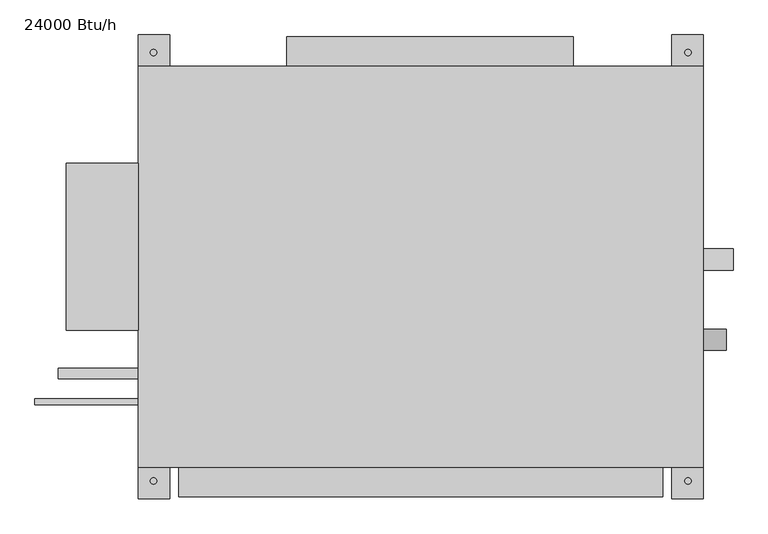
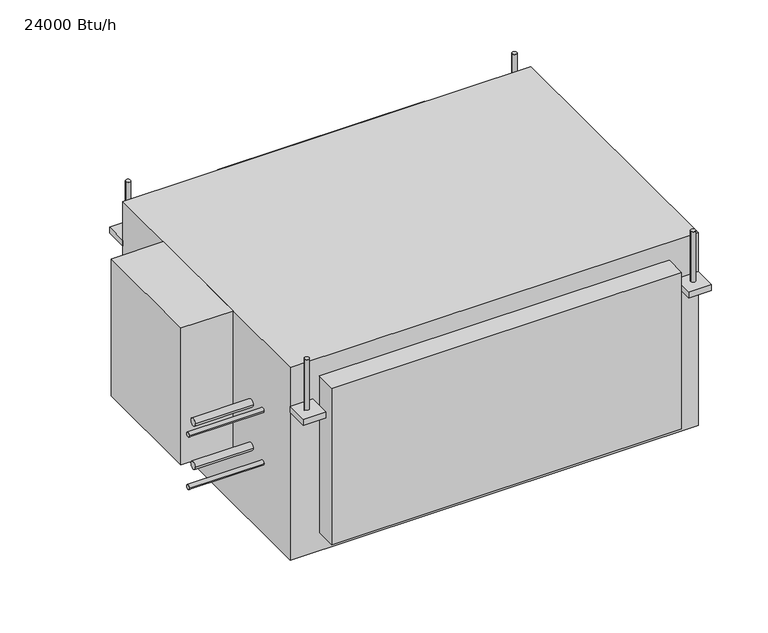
"""IFC4 building model written with IfcOpenShell, lengths in millimetres: proxy geometry, Lennox-VRF-24,30,36_Btu-High_Static_Ducted-VHIA-2P_Series : 24000 Btu/h."""

from ifc_helpers import new_model, si_unit, point, frame, frame_2d, origin, origin_with_axes, place, context, project, spatial, polyline, circle_curve, trimmed, segment, composite_curve, outline, extrude, source, transform, mapped, element, save
from ifc_brep_helpers import plane_surface, cylinder_surface, advanced_brep


def proxy_24000_btu_h_73619e10(model_context):
    return source(origin(), model_context, "Body", "SolidModel", [
        advanced_brep(
        [(511.5, -124.875, 44.0), (511.5, -93.125, 44.0), (511.5, -109.0, 44.0), (476.5, -124.875, 44.0), (476.5, -93.125, 44.0), (476.5, -109.0, 44.0)],
        [
            (0, 1, circle_curve(frame((511.5, -109.0, 44.0), z_axis=(1.0, 0.0, 0.0), x_axis=(0.0, 1.0, 0.0)), 15.875)),
            (1, 2),
            (2, 0),
            (1, 0, circle_curve(frame((511.5, -109.0, 44.0), z_axis=(1.0, 0.0, 0.0), x_axis=(0.0, 1.0, 0.0)), 15.875)),
            (3, 4, circle_curve(frame((476.5, -109.0, 44.0), z_axis=(1.0, 0.0, 0.0), x_axis=(0.0, 1.0, 0.0)), 15.875)),
            (4, 1),
            (0, 3),
            (4, 3, circle_curve(frame((476.5, -109.0, 44.0), z_axis=(1.0, 0.0, 0.0), x_axis=(0.0, 1.0, 0.0)), 15.875)),
            (5, 4),
            (3, 5),
        ],
        [
            plane_surface(frame((511.5, -109.0, 44.0), z_axis=(1.0, 0.0, 0.0), x_axis=(0.0, 1.0, 0.0))),
            cylinder_surface(frame((476.5, -109.0, 44.0), z_axis=(-1.0, 0.0, 0.0), x_axis=(0.0, 1.0, 0.0)), 15.875),
            plane_surface(frame((476.5, -109.0, 44.0), z_axis=(-1.0, 0.0, 0.0), x_axis=(0.0, 1.0, 0.0))),
        ],
        [
            (0, [[1, 2, 3]]),
            (0, [[4, -3, -2]]),
            (1, [[5, 6, -1, 7]]),
            (1, [[8, -7, -4, -6]]),
            (2, [[9, -5, 10]]),
            (2, [[-10, -8, -9]]),
        ],
    ),
        advanced_brep(
        [(476.5, 26.875, 25.0), (476.5, -4.875, 25.0), (476.5, 11.0, 25.0), (521.5, 26.875, 25.0), (521.5, -4.875, 25.0), (521.5, 11.0, 25.0)],
        [
            (0, 1, circle_curve(frame((476.5, 11.0, 25.0), z_axis=(-1.0, 0.0, 0.0), x_axis=(0.0, -1.0, 0.0)), 15.875)),
            (1, 2),
            (2, 0),
            (1, 0, circle_curve(frame((476.5, 11.0, 25.0), z_axis=(-1.0, 0.0, 0.0), x_axis=(0.0, -1.0, 0.0)), 15.875)),
            (3, 4, circle_curve(frame((521.5, 11.0, 25.0), z_axis=(-1.0, 0.0, 0.0), x_axis=(0.0, -1.0, 0.0)), 15.875)),
            (4, 1),
            (0, 3),
            (4, 3, circle_curve(frame((521.5, 11.0, 25.0), z_axis=(-1.0, 0.0, 0.0), x_axis=(0.0, -1.0, 0.0)), 15.875)),
            (5, 4),
            (3, 5),
        ],
        [
            plane_surface(frame((476.5, 11.0, 25.0), z_axis=(-1.0, 0.0, 0.0), x_axis=(0.0, -1.0, 0.0))),
            cylinder_surface(frame((1398.390044, 11.0, 25.0), z_axis=(1.0, 0.0, 0.0), x_axis=(0.0, -1.0, 0.0)), 15.875),
            plane_surface(frame((521.5, 11.0, 25.0), z_axis=(1.0, 0.0, 0.0), x_axis=(0.0, -1.0, 0.0))),
        ],
        [
            (0, [[1, 2, 3]]),
            (0, [[4, -3, -2]]),
            (1, [[5, 6, -1, 7]]),
            (1, [[8, -7, -4, -6]]),
            (2, [[9, -5, 10]]),
            (2, [[-10, -8, -9]]),
        ],
    ),
        extrude(outline(composite_curve([segment(trimmed(circle_curve(frame_2d((-160.0, 165.0)), 7.9375), [point((-167.9375, 165.0))], [point((-152.0625, 165.0))], False, "CARTESIAN"), True, "CONTINUOUS"), segment(trimmed(circle_curve(frame_2d((-160.0, 165.0)), 7.9375), [point((-152.0625, 165.0))], [point((-167.9375, 165.0))], False, "CARTESIAN"), True, "CONTINUOUS")], self_intersect=False)), frame((-488.5, 0.0, 0.0), z_axis=(1.0, 0.0, 0.0), x_axis=(0.0, 1.0, 0.0)), (0.0, 0.0, 1.0), 120.0),
        extrude(outline(composite_curve([segment(trimmed(circle_curve(frame_2d((-202.0, 155.0)), 4.7625), [point((-206.7625, 155.0))], [point((-197.2375, 155.0))], False, "CARTESIAN"), True, "CONTINUOUS"), segment(trimmed(circle_curve(frame_2d((-202.0, 155.0)), 4.7625), [point((-197.2375, 155.0))], [point((-206.7625, 155.0))], False, "CARTESIAN"), True, "CONTINUOUS")], self_intersect=False)), frame((-523.5, 0.0, 0.0), z_axis=(1.0, 0.0, 0.0), x_axis=(0.0, 1.0, 0.0)), (0.0, 0.0, 1.0), 155.0),
        extrude(outline(polyline([(476.5, 347.0), (476.5, 300.0), (429.5, 300.0), (429.5, 347.0), (476.5, 347.0)]), holes=[composite_curve([segment(trimmed(circle_curve(frame_2d((454.0, 320.5)), 4.7625), [point((449.2375, 320.5))], [point((458.7625, 320.5))], True, "CARTESIAN"), True, "CONTINUOUS"), segment(trimmed(circle_curve(frame_2d((454.0, 320.5)), 4.7625), [point((458.7625, 320.5))], [point((449.2375, 320.5))], True, "CARTESIAN"), True, "CONTINUOUS")], self_intersect=False)]), frame((0.0, 0.0, 324.0), z_axis=(0.0, 0.0, 1.0), x_axis=(1.0, 0.0, 0.0)), (0.0, 0.0, 1.0), 13.0),
        extrude(outline(polyline([(-321.5, 347.0), (-321.5, 300.0), (-368.5, 300.0), (-368.5, 347.0), (-321.5, 347.0)]), holes=[composite_curve([segment(trimmed(circle_curve(frame_2d((-346.0, 320.5)), 4.7625), [point((-350.7625, 320.5))], [point((-341.2375, 320.5))], True, "CARTESIAN"), True, "CONTINUOUS"), segment(trimmed(circle_curve(frame_2d((-346.0, 320.5)), 4.7625), [point((-341.2375, 320.5))], [point((-350.7625, 320.5))], True, "CARTESIAN"), True, "CONTINUOUS")], self_intersect=False)]), frame((0.0, 0.0, 324.0), z_axis=(0.0, 0.0, 1.0), x_axis=(1.0, 0.0, 0.0)), (0.0, 0.0, 1.0), 13.0),
        extrude(outline(polyline([(-321.5, -300.0), (-321.5, -347.0), (-368.5, -347.0), (-368.5, -300.0), (-321.5, -300.0)]), holes=[composite_curve([segment(trimmed(circle_curve(frame_2d((-346.0, -320.5)), 4.7625), [point((-350.7625, -320.5))], [point((-341.2375, -320.5))], True, "CARTESIAN"), True, "CONTINUOUS"), segment(trimmed(circle_curve(frame_2d((-346.0, -320.5)), 4.7625), [point((-341.2375, -320.5))], [point((-350.7625, -320.5))], True, "CARTESIAN"), True, "CONTINUOUS")], self_intersect=False)]), frame((0.0, 0.0, 324.0), z_axis=(0.0, 0.0, 1.0), x_axis=(1.0, 0.0, 0.0)), (0.0, 0.0, 1.0), 13.0),
        extrude(outline(polyline([(476.5, -300.0), (476.5, -347.0), (429.5, -347.0), (429.5, -300.0), (476.5, -300.0)]), holes=[composite_curve([segment(trimmed(circle_curve(frame_2d((454.0, -320.5)), 4.7625), [point((449.2375, -320.5))], [point((458.7625, -320.5))], True, "CARTESIAN"), True, "CONTINUOUS"), segment(trimmed(circle_curve(frame_2d((454.0, -320.5)), 4.7625), [point((458.7625, -320.5))], [point((449.2375, -320.5))], True, "CARTESIAN"), True, "CONTINUOUS")], self_intersect=False)]), frame((0.0, 0.0, 324.0), z_axis=(0.0, 0.0, 1.0), x_axis=(1.0, 0.0, 0.0)), (0.0, 0.0, 1.0), 13.0),
        extrude(outline(composite_curve([segment(trimmed(circle_curve(frame_2d((454.0, 320.5)), 4.7625), [point((449.2375, 320.5))], [point((458.7625, 320.5))], False, "CARTESIAN"), True, "CONTINUOUS"), segment(trimmed(circle_curve(frame_2d((454.0, 320.5)), 4.7625), [point((458.7625, 320.5))], [point((449.2375, 320.5))], False, "CARTESIAN"), True, "CONTINUOUS")], self_intersect=False)), frame((0.0, 0.0, 319.0), z_axis=(0.0, 0.0, 1.0), x_axis=(1.0, 0.0, 0.0)), (0.0, 0.0, 1.0), 128.0),
        extrude(outline(composite_curve([segment(trimmed(circle_curve(frame_2d((454.0, -320.5)), 4.7625), [point((449.2375, -320.5))], [point((458.7625, -320.5))], False, "CARTESIAN"), True, "CONTINUOUS"), segment(trimmed(circle_curve(frame_2d((454.0, -320.5)), 4.7625), [point((458.7625, -320.5))], [point((449.2375, -320.5))], False, "CARTESIAN"), True, "CONTINUOUS")], self_intersect=False)), frame((0.0, 0.0, 319.0), z_axis=(0.0, 0.0, 1.0), x_axis=(1.0, 0.0, 0.0)), (0.0, 0.0, 1.0), 128.0),
        extrude(outline(composite_curve([segment(trimmed(circle_curve(frame_2d((-346.0, 320.5)), 4.7625), [point((-350.7625, 320.5))], [point((-341.2375, 320.5))], False, "CARTESIAN"), True, "CONTINUOUS"), segment(trimmed(circle_curve(frame_2d((-346.0, 320.5)), 4.7625), [point((-341.2375, 320.5))], [point((-350.7625, 320.5))], False, "CARTESIAN"), True, "CONTINUOUS")], self_intersect=False)), frame((0.0, 0.0, 319.0), z_axis=(0.0, 0.0, 1.0), x_axis=(1.0, 0.0, 0.0)), (0.0, 0.0, 1.0), 128.0),
        extrude(outline(composite_curve([segment(trimmed(circle_curve(frame_2d((-346.0, -320.5)), 4.7625), [point((-350.7625, -320.5))], [point((-341.2375, -320.5))], False, "CARTESIAN"), True, "CONTINUOUS"), segment(trimmed(circle_curve(frame_2d((-346.0, -320.5)), 4.7625), [point((-341.2375, -320.5))], [point((-350.7625, -320.5))], False, "CARTESIAN"), True, "CONTINUOUS")], self_intersect=False)), frame((0.0, 0.0, 319.0), z_axis=(0.0, 0.0, 1.0), x_axis=(1.0, 0.0, 0.0)), (0.0, 0.0, 1.0), 128.0),
        extrude(outline(polyline([(-368.5, 155.0), (-368.5, -95.0), (-476.5, -95.0), (-476.5, 155.0), (-368.5, 155.0)])), frame((0.0, 0.0, 122.0), z_axis=(0.0, 0.0, 1.0), x_axis=(1.0, 0.0, 0.0)), (0.0, 0.0, 1.0), 300.0),
        extrude(outline(composite_curve([segment(trimmed(circle_curve(frame_2d((-160.0, 260.0)), 7.9375), [point((-167.9375, 260.0))], [point((-152.0625, 260.0))], False, "CARTESIAN"), True, "CONTINUOUS"), segment(trimmed(circle_curve(frame_2d((-160.0, 260.0)), 7.9375), [point((-152.0625, 260.0))], [point((-167.9375, 260.0))], False, "CARTESIAN"), True, "CONTINUOUS")], self_intersect=False)), frame((-488.5, 0.0, 0.0), z_axis=(1.0, 0.0, 0.0), x_axis=(0.0, 1.0, 0.0)), (0.0, 0.0, 1.0), 120.0),
        extrude(outline(composite_curve([segment(trimmed(circle_curve(frame_2d((-202.0, 270.0)), 4.7625), [point((-206.7625, 270.0))], [point((-197.2375, 270.0))], False, "CARTESIAN"), True, "CONTINUOUS"), segment(trimmed(circle_curve(frame_2d((-202.0, 270.0)), 4.7625), [point((-197.2375, 270.0))], [point((-206.7625, 270.0))], False, "CARTESIAN"), True, "CONTINUOUS")], self_intersect=False)), frame((-523.5, 0.0, 0.0), z_axis=(1.0, 0.0, 0.0), x_axis=(0.0, 1.0, 0.0)), (0.0, 0.0, 1.0), 155.0),
        extrude(outline(polyline([(416.0, -300.0), (416.0, -344.5), (-308.0, -344.5), (-308.0, -300.0), (416.0, -300.0)])), frame((0.0, 0.0, 39.5), z_axis=(0.0, 0.0, 1.0), x_axis=(1.0, 0.0, 0.0)), (0.0, 0.0, 1.0), 343.0),
        extrude(outline(polyline([(282.5, 344.5), (282.5, 300.0), (-146.5, 300.0), (-146.5, 344.5), (282.5, 344.5)])), frame((0.0, 0.0, 133.0), z_axis=(0.0, 0.0, 1.0), x_axis=(1.0, 0.0, 0.0)), (0.0, 0.0, 1.0), 254.0),
        extrude(outline(polyline([(476.5, 300.0), (476.5, -300.0), (-368.5, -300.0), (-368.5, 300.0), (476.5, 300.0)])), origin_with_axes(), (0.0, 0.0, 1.0), 422.0),
    ])


if __name__ == "__main__":
    model = new_model("IFC4")
    model_context = context("Model", 3, world=origin())
    ifc_project = project(units=[si_unit("LENGTHUNIT", "METRE", prefix="MILLI")], contexts=[model_context])
    site = spatial("IfcSite", under=ifc_project)
    building = spatial("IfcBuilding", under=site)
    placement = place(None, origin())
    proxy_24000_btu_h_shape = proxy_24000_btu_h_73619e10(model_context)
    element("IfcBuildingElementProxy", 1, Name="Lennox-VRF-24,30,36_Btu-High_Static_Ducted-VHIA-2P_Series : 24000 Btu/h", ObjectType="Lennox-VRF-24,30,36_Btu-High_Static_Ducted-VHIA-2P_Series : 24000 Btu/h", at=placement, inside=building, context=model_context, shape_type="MappedRepresentation", body=[
        mapped(proxy_24000_btu_h_shape, transform((0.0, 0.0, 0.0), x_axis=(1.0, 0.0, 0.0), y_axis=(0.0, 1.0, 0.0), z_axis=(0.0, 0.0, 1.0))),
    ])
    save(model, "model.ifc")
